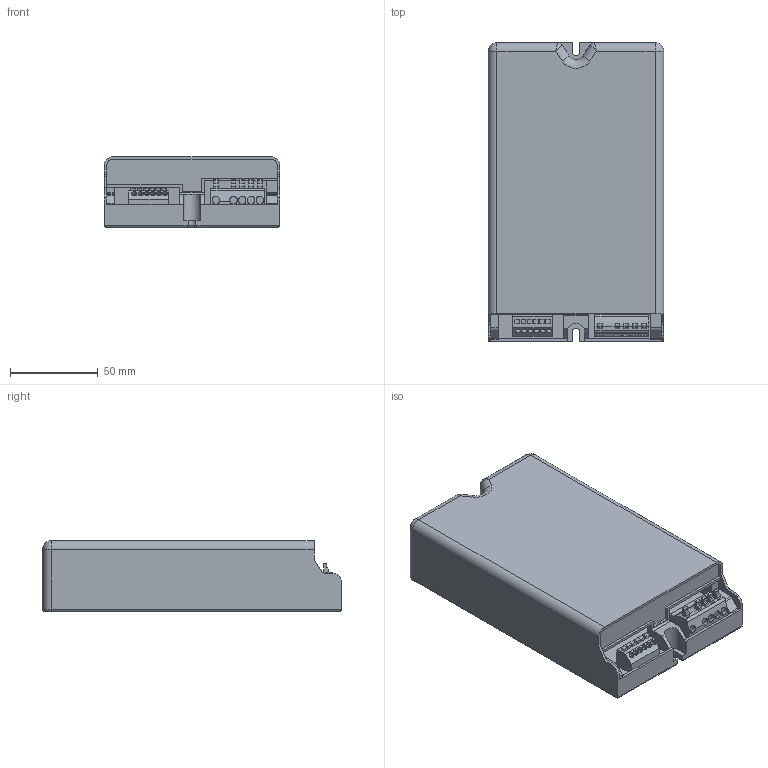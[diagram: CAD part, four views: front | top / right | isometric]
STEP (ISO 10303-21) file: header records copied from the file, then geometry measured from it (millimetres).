
FILE_DESCRIPTION((''),'2;1');
FILE_NAME('15009464Z_HYPE_170X100_DATAMEC','2015-06-17T',('juergen.hrach'),(''),'PRO/ENGINEER BY PARAMETRIC TECHNOLOGY CORPORATION, 2014000','PRO/ENGINEER BY PARAMETRIC TECHNOLOGY CORPORATION, 2014000','');
FILE_SCHEMA(('AUTOMOTIVE_DESIGN { 1 0 10303 214 1 1 1 1 }'));
Length unit declared in the file: millimetre
Products named in the file (1): 15009464Z_HYPE_170X100_DATAMEC
Bounding box: 100 x 170 x 40 mm (x, y, z)
Volume: 299741.6 mm3; surface area: 94066.5 mm2
Topology: 1 solids, 1 shells, 268 faces, 734 edges, 480 vertices
Faces by surface type: plane 178, cylinder 81, torus 5, sphere 2, bspline 2
Entity records: 11224 total; most frequent: CARTESIAN_POINT 1764, ORIENTED_EDGE 1468, DIRECTION 1385, PRESENTATION_STYLE_ASSIGNMENT 735, STYLED_ITEM 735, CURVE_STYLE 734, EDGE_CURVE 734, VECTOR 551
